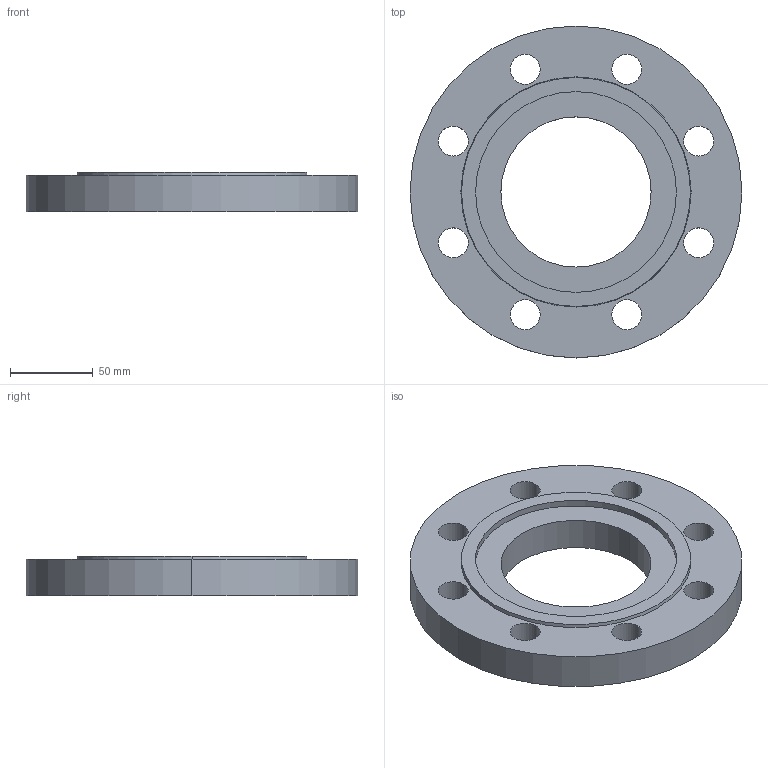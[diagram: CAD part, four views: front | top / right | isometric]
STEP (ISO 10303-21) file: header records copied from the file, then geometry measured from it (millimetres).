
FILE_DESCRIPTION (( 'STEP AP214' ), '1' );
FILE_NAME ('PN40 DN80 Type 01 - Type F Face.STEP', '2019-01-01T19:47:40', ( '' ), ( '' ), 'SwSTEP 2.0', 'SolidWorks 2019', '' );
FILE_SCHEMA (( 'AUTOMOTIVE_DESIGN' ));
Length unit declared in the file: millimetre
Products named in the file (1): PN40 DN80 Type 01 - Type F Face
Bounding box: 200 x 200 x 24 mm (x, y, z)
Volume: 501783 mm3; surface area: 77606.9 mm2
Topology: 1 solids, 1 shells, 28 faces, 72 edges, 48 vertices
Faces by surface type: cylinder 22, plane 4, cone 2
Entity records: 954 total; most frequent: DIRECTION 178, CARTESIAN_POINT 149, ORIENTED_EDGE 144, AXIS2_PLACEMENT_3D 77, EDGE_CURVE 72, CIRCLE 48, EDGE_LOOP 48, VERTEX_POINT 48
